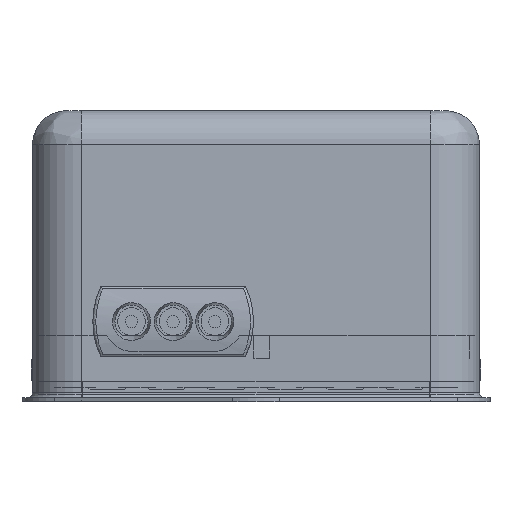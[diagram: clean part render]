
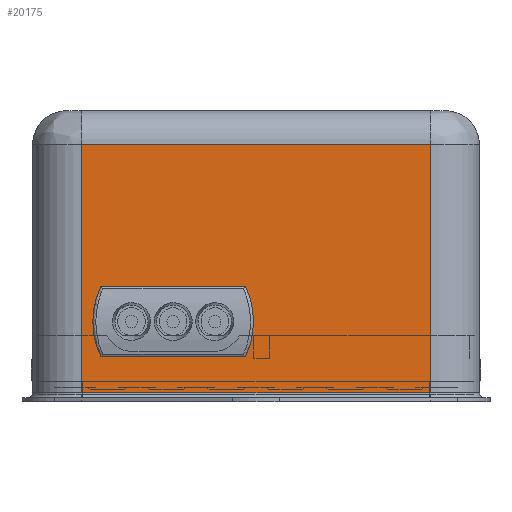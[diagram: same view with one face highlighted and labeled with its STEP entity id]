
A CAD part, left-side view. The second image highlights one B-rep face of the part: STEP entity #20175.
In plain terms, the highlighted planar face has unit normal (-1, 0, 0).
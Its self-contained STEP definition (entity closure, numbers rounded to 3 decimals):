
#300=FACE_BOUND('',#2415,.T.);
#1288=FACE_OUTER_BOUND('',#2414,.T.);
#2414=EDGE_LOOP('',(#17062,#17063,#17064,#17065));
#2415=EDGE_LOOP('',(#17066,#17067,#17068,#17069));
#2567=CIRCLE('',#21171,8.);
#2568=CIRCLE('',#21175,8.);
#5022=LINE('',#32194,#7393);
#5024=LINE('',#32205,#7395);
#5096=LINE('',#32533,#7467);
#5103=LINE('',#32576,#7474);
#5104=LINE('',#32580,#7475);
#5105=LINE('',#32581,#7476);
#7393=VECTOR('',#25493,10.);
#7395=VECTOR('',#25511,10.);
#7467=VECTOR('',#25711,10.);
#7474=VECTOR('',#25766,10.);
#7475=VECTOR('',#25771,10.);
#7476=VECTOR('',#25772,10.);
#9165=VERTEX_POINT('',#32186);
#9166=VERTEX_POINT('',#32188);
#9167=VERTEX_POINT('',#32192);
#9168=VERTEX_POINT('',#32197);
#9223=VERTEX_POINT('',#32526);
#9226=VERTEX_POINT('',#32531);
#9238=VERTEX_POINT('',#32575);
#9239=VERTEX_POINT('',#32579);
#11753=EDGE_CURVE('',#9166,#9165,#2567,.T.);
#11756=EDGE_CURVE('',#9165,#9167,#5022,.T.);
#11758=EDGE_CURVE('',#9167,#9168,#2568,.T.);
#11759=EDGE_CURVE('',#9168,#9166,#5024,.T.);
#11858=EDGE_CURVE('',#9226,#9223,#5096,.T.);
#11880=EDGE_CURVE('',#9223,#9238,#5103,.T.);
#11882=EDGE_CURVE('',#9239,#9226,#5104,.T.);
#11883=EDGE_CURVE('',#9238,#9239,#5105,.T.);
#17062=ORIENTED_EDGE('',*,*,#11858,.F.);
#17063=ORIENTED_EDGE('',*,*,#11882,.F.);
#17064=ORIENTED_EDGE('',*,*,#11883,.F.);
#17065=ORIENTED_EDGE('',*,*,#11880,.F.);
#17066=ORIENTED_EDGE('',*,*,#11753,.T.);
#17067=ORIENTED_EDGE('',*,*,#11756,.T.);
#17068=ORIENTED_EDGE('',*,*,#11758,.T.);
#17069=ORIENTED_EDGE('',*,*,#11759,.T.);
#18172=PLANE('',#21270);
#20175=ADVANCED_FACE('',(#1288,#300),#18172,.T.);
#21171=AXIS2_PLACEMENT_3D('',#32189,#25487,#25488);
#21175=AXIS2_PLACEMENT_3D('',#32199,#25499,#25500);
#21270=AXIS2_PLACEMENT_3D('',#32578,#25769,#25770);
#25487=DIRECTION('center_axis',(1.,0.,0.));
#25488=DIRECTION('ref_axis',(0.,-0.899,-0.437));
#25493=DIRECTION('',(0.,-1.,0.));
#25499=DIRECTION('center_axis',(1.,0.,0.));
#25500=DIRECTION('ref_axis',(0.,0.899,0.437));
#25511=DIRECTION('',(0.,1.,0.));
#25711=DIRECTION('',(0.,1.,0.));
#25766=DIRECTION('',(0.,0.,1.));
#25769=DIRECTION('center_axis',(-1.,0.,0.));
#25770=DIRECTION('ref_axis',(0.,-1.,0.));
#25771=DIRECTION('',(0.,0.,-1.));
#25772=DIRECTION('',(0.,-1.,0.));
#32186=CARTESIAN_POINT('',(-25.25,15.444,-3.));
#32188=CARTESIAN_POINT('',(-25.25,15.444,-10.));
#32189=CARTESIAN_POINT('Origin',(-25.25,8.25,-6.5));
#32192=CARTESIAN_POINT('',(-25.25,1.056,-3.));
#32194=CARTESIAN_POINT('',(-25.25,18.847,-3.));
#32197=CARTESIAN_POINT('',(-25.25,1.056,-10.));
#32199=CARTESIAN_POINT('Origin',(-25.25,8.25,-6.5));
#32205=CARTESIAN_POINT('',(-25.25,11.653,-10.));
#32526=CARTESIAN_POINT('',(-25.25,17.35,-13.6));
#32531=CARTESIAN_POINT('',(-25.25,-17.35,-13.6));
#32533=CARTESIAN_POINT('',(-25.25,11.125,-13.6));
#32575=CARTESIAN_POINT('',(-25.25,17.35,11.1));
#32576=CARTESIAN_POINT('',(-25.25,17.35,0.));
#32578=CARTESIAN_POINT('Origin',(-25.25,22.25,0.));
#32579=CARTESIAN_POINT('',(-25.25,-17.35,11.1));
#32580=CARTESIAN_POINT('',(-25.25,-17.35,0.));
#32581=CARTESIAN_POINT('',(-25.25,11.125,11.1));
